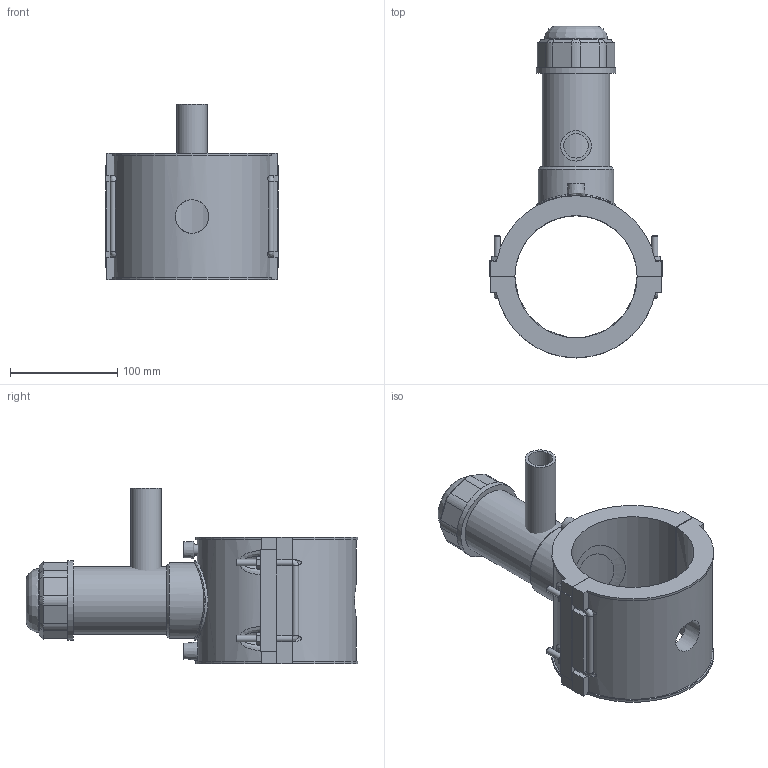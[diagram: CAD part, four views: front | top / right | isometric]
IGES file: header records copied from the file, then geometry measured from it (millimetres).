
Global section: file name: 5963BUP3040010.ipt; native system: Autodesk Inventor 2019; preprocessor: unknown; author: KIM; date: 20210830.101622; units: inch
Bounding box: 161 x 309.74 x 163.96 mm (x, y, z)
Volume: 1230545.7 mm3; surface area: 222423.5 mm2
Topology: 5 solids, 6 shells, 195 faces, 480 edges, 304 vertices
Faces by surface type: plane 112, cylinder 38, revolution 17, cone 15, bspline 13
Full cylindrical faces by diameter (mm): 4 x2, 6 x8, 28.45 x1, 59.332 x1, 63.04 x1, 70.457 x1, 74.165 x2
